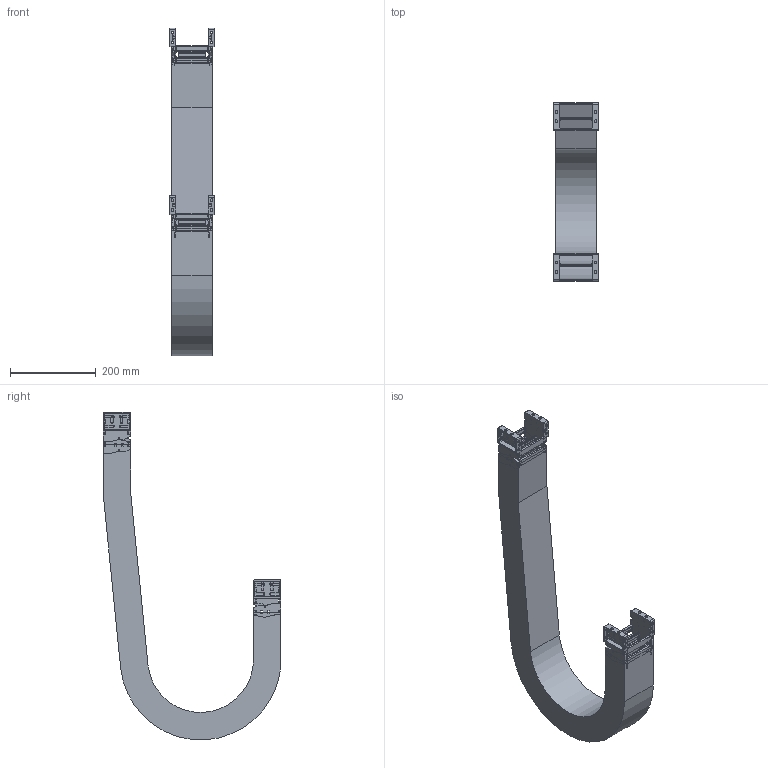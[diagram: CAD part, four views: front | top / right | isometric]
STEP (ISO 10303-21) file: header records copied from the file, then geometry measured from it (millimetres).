
FILE_DESCRIPTION((''),'2;1');
FILE_NAME('KST-50075-150_ASM','2017-12-08T',('KUNI004K'),(''),'PRO/ENGINEER BY PARAMETRIC TECHNOLOGY CORPORATION, 2015200','PRO/ENGINEER BY PARAMETRIC TECHNOLOGY CORPORATION, 2015200','');
FILE_SCHEMA(('AUTOMOTIVE_DESIGN { 1 0 10303 214 1 1 1 1 }'));
Length unit declared in the file: millimetre
Products named in the file (13): 50FBR; 50FBL; 40075C; KST50FB_W075_ASM; KST50150R; KST50150L; 40075H; KST50075-150_1_ASM; KST50075_R150_BODY; 50MBR; 50MBL; KST50MB_W075_ASM; KST-50075-150_ASM
Assembly tree (19 placements, depth 3):
  KST-50075-150_ASM
    KST50FB_W075_ASM
      50FBR
      50FBL
      40075C  x2
    KST50075-150_1_ASM  x2
      KST50150R
      KST50150L
      40075C
      40075H
    KST50075_R150_BODY
    KST50MB_W075_ASM
      50MBR
      50MBL
      40075C  x2
Bounding box: 103 x 414 x 762.32 mm (x, y, z)
Volume: 2742837.5 mm3; surface area: 930960.9 mm2
Topology: 21 solids, 21 shells, 2728 faces, 7422 edges, 4764 vertices
Faces by surface type: plane 1406, cylinder 946, bspline 308, torus 68
Entity records: 67826 total; most frequent: CARTESIAN_POINT 14123, ORIENTED_EDGE 7208, DIRECTION 6520, PRESENTATION_STYLE_ASSIGNMENT 4920, STYLED_ITEM 4920, CURVE_STYLE 3604, EDGE_CURVE 3604, VERTEX_POINT 2328
